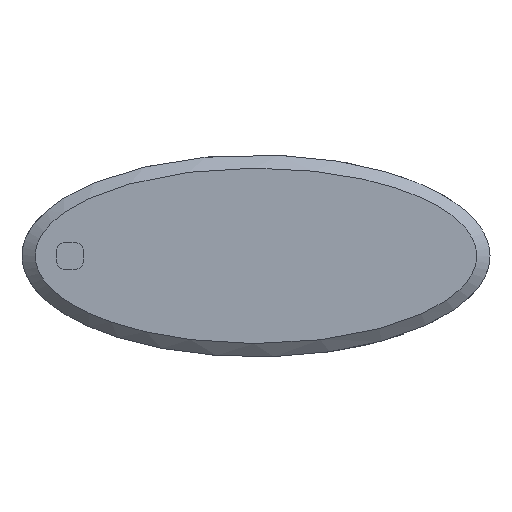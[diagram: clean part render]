
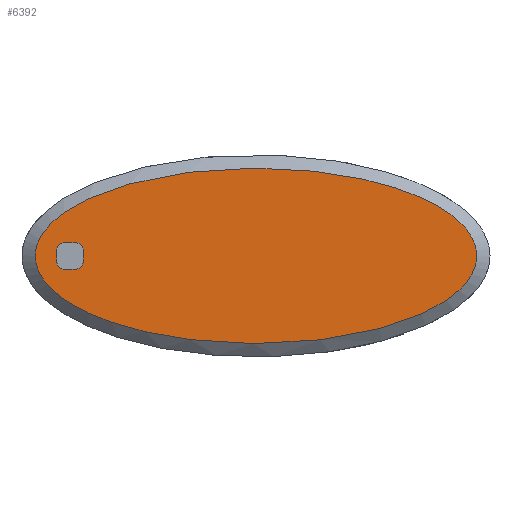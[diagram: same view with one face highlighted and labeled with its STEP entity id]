
A CAD part, top view. The second image highlights one B-rep face of the part: STEP entity #6392.
In plain terms, the highlighted planar face has unit normal (0, 0, 1).
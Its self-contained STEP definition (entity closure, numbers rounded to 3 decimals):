
#5776 = B_SPLINE_SURFACE_WITH_KNOTS('',14,1,(
    (#5777,#5778)
    ,(#5779,#5780)
    ,(#5781,#5782)
    ,(#5783,#5784)
    ,(#5785,#5786)
    ,(#5787,#5788)
    ,(#5789,#5790)
    ,(#5791,#5792)
    ,(#5793,#5794)
    ,(#5795,#5796)
    ,(#5797,#5798)
    ,(#5799,#5800)
    ,(#5801,#5802)
    ,(#5803,#5804)
    ,(#5805,#5806)
    ,(#5807,#5808)
    ,(#5809,#5810)
    ,(#5811,#5812)
    ,(#5813,#5814)
    ,(#5815,#5816)
    ,(#5817,#5818)
    ,(#5819,#5820)
    ,(#5821,#5822)
    ,(#5823,#5824)
    ,(#5825,#5826)
    ,(#5827,#5828)
    ,(#5829,#5830)
    ,(#5831,#5832
    )),.UNSPECIFIED.,.T.,.F.,.F.,(1,14,13,14,1),(2,2),(-3.142,0.
    ,3.142,6.283,9.425),(0.,1.),.UNSPECIFIED.);
#5777 = CARTESIAN_POINT('',(88.,0.,6.4));
#5778 = CARTESIAN_POINT('',(83.,0.,10.4));
#5779 = CARTESIAN_POINT('',(88.,8.527,6.4));
#5780 = CARTESIAN_POINT('',(83.,7.405,10.4));
#5781 = CARTESIAN_POINT('',(83.228,17.054,6.4));
#5782 = CARTESIAN_POINT('',(78.499,14.81,10.4));
#5783 = CARTESIAN_POINT('',(73.684,25.042,6.4));
#5784 = CARTESIAN_POINT('',(69.497,21.747,10.4));
#5785 = CARTESIAN_POINT('',(59.724,31.951,6.4));
#5786 = CARTESIAN_POINT('',(56.331,27.747,10.4));
#5787 = CARTESIAN_POINT('',(42.063,37.289,6.4));
#5788 = CARTESIAN_POINT('',(39.673,32.383,10.4));
#5789 = CARTESIAN_POINT('',(21.731,40.664,6.4));
#5790 = CARTESIAN_POINT('',(20.497,35.313,10.4));
#5791 = CARTESIAN_POINT('',(0.,41.818,6.4));
#5792 = CARTESIAN_POINT('',(0.,36.316,10.4));
#5793 = CARTESIAN_POINT('',(-21.731,40.664,6.4));
#5794 = CARTESIAN_POINT('',(-20.497,35.313,10.4));
#5795 = CARTESIAN_POINT('',(-42.063,37.289,6.4));
#5796 = CARTESIAN_POINT('',(-39.673,32.383,10.4));
#5797 = CARTESIAN_POINT('',(-59.724,31.951,6.4));
#5798 = CARTESIAN_POINT('',(-56.331,27.747,10.4));
#5799 = CARTESIAN_POINT('',(-73.684,25.042,6.4));
#5800 = CARTESIAN_POINT('',(-69.497,21.747,10.4));
#5801 = CARTESIAN_POINT('',(-83.228,17.054,6.4));
#5802 = CARTESIAN_POINT('',(-78.499,14.81,10.4));
#5803 = CARTESIAN_POINT('',(-88.,8.527,6.4));
#5804 = CARTESIAN_POINT('',(-83.,7.405,10.4));
#5805 = CARTESIAN_POINT('',(-88.,-8.527,6.4));
#5806 = CARTESIAN_POINT('',(-83.,-7.405,10.4));
#5807 = CARTESIAN_POINT('',(-83.228,-17.054,6.4));
#5808 = CARTESIAN_POINT('',(-78.499,-14.81,10.4));
#5809 = CARTESIAN_POINT('',(-73.684,-25.042,6.4));
#5810 = CARTESIAN_POINT('',(-69.497,-21.747,10.4));
#5811 = CARTESIAN_POINT('',(-59.724,-31.951,6.4));
#5812 = CARTESIAN_POINT('',(-56.331,-27.747,10.4));
#5813 = CARTESIAN_POINT('',(-42.063,-37.289,6.4));
#5814 = CARTESIAN_POINT('',(-39.673,-32.383,10.4));
#5815 = CARTESIAN_POINT('',(-21.731,-40.664,6.4));
#5816 = CARTESIAN_POINT('',(-20.497,-35.313,10.4));
#5817 = CARTESIAN_POINT('',(0.,-41.818,6.4));
#5818 = CARTESIAN_POINT('',(0.,-36.316,10.4));
#5819 = CARTESIAN_POINT('',(21.731,-40.664,6.4));
#5820 = CARTESIAN_POINT('',(20.497,-35.313,10.4));
#5821 = CARTESIAN_POINT('',(42.063,-37.289,6.4));
#5822 = CARTESIAN_POINT('',(39.673,-32.383,10.4));
#5823 = CARTESIAN_POINT('',(59.724,-31.951,6.4));
#5824 = CARTESIAN_POINT('',(56.331,-27.747,10.4));
#5825 = CARTESIAN_POINT('',(73.684,-25.042,6.4));
#5826 = CARTESIAN_POINT('',(69.497,-21.747,10.4));
#5827 = CARTESIAN_POINT('',(83.228,-17.054,6.4));
#5828 = CARTESIAN_POINT('',(78.499,-14.81,10.4));
#5829 = CARTESIAN_POINT('',(88.,-8.527,6.4));
#5830 = CARTESIAN_POINT('',(83.,-7.405,10.4));
#5831 = CARTESIAN_POINT('',(88.,0.,6.4));
#5832 = CARTESIAN_POINT('',(83.,0.,10.4));
#5853 = VERTEX_POINT('',#5854);
#5854 = CARTESIAN_POINT('',(83.,0.,10.4));
#5874 = EDGE_CURVE('',#5853,#5853,#5875,.T.);
#5875 = SURFACE_CURVE('',#5876,(#5881,#5888),.PCURVE_S1.);
#5876 = ELLIPSE('',#5877,83.,33.);
#5877 = AXIS2_PLACEMENT_3D('',#5878,#5879,#5880);
#5878 = CARTESIAN_POINT('',(0.,0.,10.4));
#5879 = DIRECTION('',(0.,0.,1.));
#5880 = DIRECTION('',(1.,0.,-0.));
#5881 = PCURVE('',#5776,#5882);
#5882 = DEFINITIONAL_REPRESENTATION('',(#5883),#5887);
#5883 = LINE('',#5884,#5885);
#5884 = CARTESIAN_POINT('',(0.,1.));
#5885 = VECTOR('',#5886,1.);
#5886 = DIRECTION('',(1.,0.));
#5887 = ( GEOMETRIC_REPRESENTATION_CONTEXT(2) 
PARAMETRIC_REPRESENTATION_CONTEXT() REPRESENTATION_CONTEXT('2D SPACE',''
  ) );
#5888 = PCURVE('',#5889,#5894);
#5889 = PLANE('',#5890);
#5890 = AXIS2_PLACEMENT_3D('',#5891,#5892,#5893);
#5891 = CARTESIAN_POINT('',(0.,0.,10.4));
#5892 = DIRECTION('',(0.,0.,1.));
#5893 = DIRECTION('',(1.,0.,-0.));
#5894 = DEFINITIONAL_REPRESENTATION('',(#5895),#5899);
#5895 = ELLIPSE('',#5896,83.,33.);
#5896 = AXIS2_PLACEMENT_2D('',#5897,#5898);
#5897 = CARTESIAN_POINT('',(0.,0.));
#5898 = DIRECTION('',(1.,0.));
#5899 = ( GEOMETRIC_REPRESENTATION_CONTEXT(2) 
PARAMETRIC_REPRESENTATION_CONTEXT() REPRESENTATION_CONTEXT('2D SPACE',''
  ) );
#6153 = CYLINDRICAL_SURFACE('',#6154,2.8);
#6154 = AXIS2_PLACEMENT_3D('',#6155,#6156,#6157);
#6155 = CARTESIAN_POINT('',(-70.,0.,-1.));
#6156 = DIRECTION('',(0.,0.,1.));
#6157 = DIRECTION('',(1.,0.,-0.));
#6392 = ADVANCED_FACE('',(#6393,#6396),#5889,.T.);
#6393 = FACE_BOUND('',#6394,.T.);
#6394 = EDGE_LOOP('',(#6395));
#6395 = ORIENTED_EDGE('',*,*,#5874,.T.);
#6396 = FACE_BOUND('',#6397,.T.);
#6397 = EDGE_LOOP('',(#6398));
#6398 = ORIENTED_EDGE('',*,*,#6399,.F.);
#6399 = EDGE_CURVE('',#6400,#6400,#6402,.T.);
#6400 = VERTEX_POINT('',#6401);
#6401 = CARTESIAN_POINT('',(-67.2,0.,10.4));
#6402 = SURFACE_CURVE('',#6403,(#6408,#6415),.PCURVE_S1.);
#6403 = CIRCLE('',#6404,2.8);
#6404 = AXIS2_PLACEMENT_3D('',#6405,#6406,#6407);
#6405 = CARTESIAN_POINT('',(-70.,0.,10.4));
#6406 = DIRECTION('',(0.,0.,1.));
#6407 = DIRECTION('',(1.,0.,-0.));
#6408 = PCURVE('',#5889,#6409);
#6409 = DEFINITIONAL_REPRESENTATION('',(#6410),#6414);
#6410 = CIRCLE('',#6411,2.8);
#6411 = AXIS2_PLACEMENT_2D('',#6412,#6413);
#6412 = CARTESIAN_POINT('',(-70.,0.));
#6413 = DIRECTION('',(1.,0.));
#6414 = ( GEOMETRIC_REPRESENTATION_CONTEXT(2) 
PARAMETRIC_REPRESENTATION_CONTEXT() REPRESENTATION_CONTEXT('2D SPACE',''
  ) );
#6415 = PCURVE('',#6153,#6416);
#6416 = DEFINITIONAL_REPRESENTATION('',(#6417),#6421);
#6417 = LINE('',#6418,#6419);
#6418 = CARTESIAN_POINT('',(0.,11.4));
#6419 = VECTOR('',#6420,1.);
#6420 = DIRECTION('',(1.,0.));
#6421 = ( GEOMETRIC_REPRESENTATION_CONTEXT(2) 
PARAMETRIC_REPRESENTATION_CONTEXT() REPRESENTATION_CONTEXT('2D SPACE',''
  ) );
